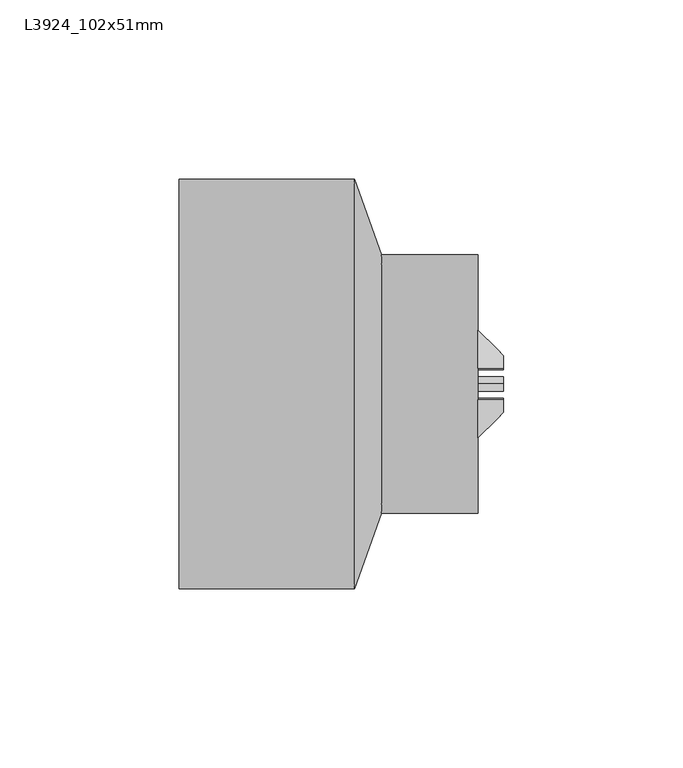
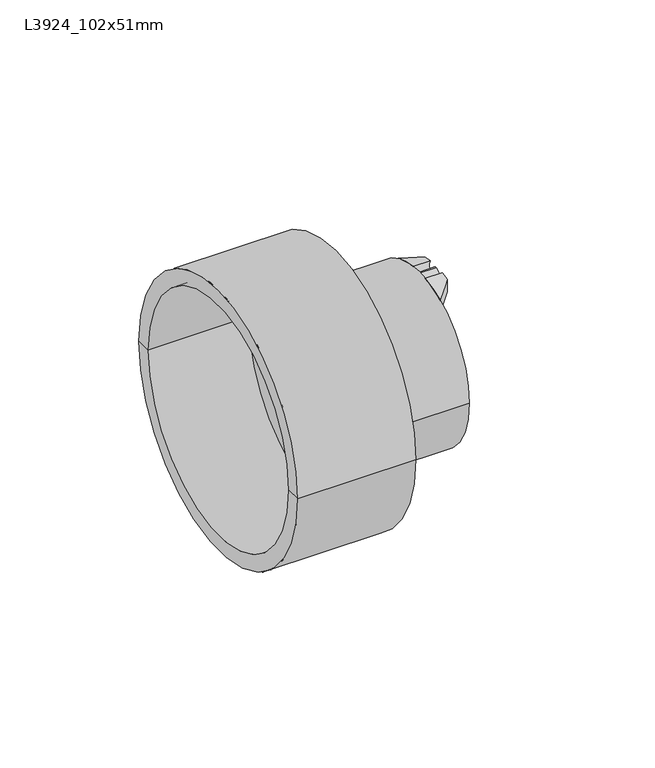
"""IFC4 building model written with IfcOpenShell, lengths in millimetres: pipe fitting geometry, Durapipe_PipeFitting_VulcatheneEnfusion_ReducingCoupler_L39 : L3924_102x51mm."""

from ifc_helpers import new_model, si_unit, point, frame, frame_2d, origin, place, context, project, spatial, polyline, circle_curve, ellipse_curve, trimmed, segment, composite_curve, outline, extrude, source, transform, mapped, element, save
from ifc_brep_helpers import plane_surface, cylinder_surface, revolved_surface, advanced_brep


def l3924_102x51mm_bab0a69e(model_context):
    return source(origin(), model_context, "Body", "SolidModel", [
        advanced_brep(
        [(48.85, -4.0250429, 30.2836842), (48.85, -4.3677433, 35.6836842), (48.85, -7.94, 35.0622147), (48.85, -7.94, 29.5001508), (41.75, -15.0, 32.6711264), (41.75, -4.3677433, 35.6836842), (41.75, -4.0250429, 30.2836842), (41.75, -15.0, 26.6139531)],
        [
            (0, 1, circle_curve(frame((48.85, 0.0, 33.25), z_axis=(-1.0, 0.0, 0.0), x_axis=(0.0, 0.0, -1.0)), 5.0)),
            (1, 2, circle_curve(frame((48.85, 0.0, 0.0), z_axis=(1.0, 0.0, 0.0), x_axis=(0.0, 0.0, -1.0)), 35.95)),
            (2, 3),
            (3, 0, circle_curve(frame((48.85, 0.0, 0.0), z_axis=(-1.0, 0.0, 0.0), x_axis=(0.0, 0.0, -1.0)), 30.55)),
            (4, 5, circle_curve(frame((41.75, 0.0, 0.0), z_axis=(-1.0, 0.0, 0.0), x_axis=(0.0, 0.0, -1.0)), 35.95)),
            (5, 6, circle_curve(frame((41.75, 0.0, 33.25), z_axis=(1.0, 0.0, 0.0), x_axis=(0.0, 0.0, -1.0)), 5.0)),
            (6, 7, circle_curve(frame((41.75, 0.0, 0.0), z_axis=(1.0, 0.0, 0.0), x_axis=(0.0, 0.0, -1.0)), 30.55)),
            (7, 4),
            (6, 0),
            (3, 7, ellipse_curve(frame((56.8349858, 0.0, 0.0), z_axis=(0.7051064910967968, -0.7091014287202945, 0.0), x_axis=(-0.7091014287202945, -0.7051064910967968, 0.0)), 43.3267888, 30.55)),
            (4, 2, ellipse_curve(frame((56.8349858, 0.0, 0.0), z_axis=(-0.7051064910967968, 0.7091014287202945, 0.0), x_axis=(0.7091014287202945, 0.7051064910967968, 0.0)), 50.9852064, 35.95)),
            (1, 5),
        ],
        [
            plane_surface(frame((48.85, -15.0, 32.6711264), z_axis=(1.0, 0.0, 0.0), x_axis=(0.0, 0.0, -1.0))),
            plane_surface(frame((41.75, -15.0, 32.6711264), z_axis=(-1.0, 0.0, 0.0), x_axis=(0.0, 0.0, 1.0))),
            revolved_surface(polyline([(26.111897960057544, 0.0, -30.55), (87.55807363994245, 0.0, -30.55)]), (41.75, 0.0, 0.0), (-1.0, 0.0, 0.0)),
            cylinder_surface(frame((41.75, 0.0, 0.0), z_axis=(1.0, 0.0, 0.0), x_axis=(0.0, 0.0, -1.0)), 35.95),
            revolved_surface(polyline([(48.85, 0.0, 28.25), (41.75, 0.0, 28.25)]), (41.75, 0.0, 33.25), (1.0, 0.0, 0.0)),
            plane_surface(frame((41.75, -15.0, -35.95), z_axis=(0.7051064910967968, -0.7091014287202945, 0.0), x_axis=(0.0, 0.0, 1.0))),
        ],
        [
            (0, [[1, 2, 3, 4]]),
            (1, [[5, 6, 7, 8]]),
            (2, [[-7, 9, -4, 10]]),
            (3, [[-5, 11, -2, 12]]),
            (4, [[-1, -9, -6, -12]]),
            (5, [[-3, -11, -8, -10]]),
        ],
    ),
        advanced_brep(
        [(48.85, 4.3677433, 35.6836842), (48.85, 4.0250429, 30.2836842), (48.85, 7.94, 29.5001508), (48.85, 7.94, 35.0622147), (41.75, 4.3677433, 35.6836842), (41.75, 15.0, 32.6711264), (41.75, 15.0, 26.6139531), (41.75, 4.0250429, 30.2836842)],
        [
            (0, 1, circle_curve(frame((48.85, 0.0, 33.25), z_axis=(-1.0, 0.0, 0.0), x_axis=(0.0, 0.0, -1.0)), 5.0)),
            (1, 2, circle_curve(frame((48.85, 0.0, 0.0), z_axis=(-1.0, 0.0, 0.0), x_axis=(0.0, 0.0, -1.0)), 30.55)),
            (2, 3),
            (3, 0, circle_curve(frame((48.85, 0.0, 0.0), z_axis=(1.0, 0.0, 0.0), x_axis=(0.0, 0.0, -1.0)), 35.95)),
            (4, 5, circle_curve(frame((41.75, 0.0, 0.0), z_axis=(-1.0, 0.0, 0.0), x_axis=(0.0, 0.0, -1.0)), 35.95)),
            (5, 6),
            (6, 7, circle_curve(frame((41.75, 0.0, 0.0), z_axis=(1.0, 0.0, 0.0), x_axis=(0.0, 0.0, -1.0)), 30.55)),
            (7, 4, circle_curve(frame((41.75, 0.0, 33.25), z_axis=(1.0, 0.0, 0.0), x_axis=(0.0, 0.0, -1.0)), 5.0)),
            (6, 2, ellipse_curve(frame((56.8349858, 0.0, 0.0), z_axis=(0.7051064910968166, 0.7091014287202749, 0.0), x_axis=(-0.7091014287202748, 0.7051064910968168, 0.0)), 43.3267888, 30.55)),
            (1, 7),
            (4, 0),
            (3, 5, ellipse_curve(frame((56.8349858, 0.0, 0.0), z_axis=(-0.7051064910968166, -0.7091014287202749, 0.0), x_axis=(0.7091014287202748, -0.7051064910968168, 0.0)), 50.9852064, 35.95)),
        ],
        [
            plane_surface(frame((48.85, -15.0, 32.6711264), z_axis=(1.0, 0.0, 0.0), x_axis=(0.0, 0.0, -1.0))),
            plane_surface(frame((41.75, -15.0, 32.6711264), z_axis=(-1.0, 0.0, 0.0), x_axis=(0.0, 0.0, 1.0))),
            revolved_surface(polyline([(26.111897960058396, 0.0, -30.55), (87.5580736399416, 0.0, -30.55)]), (41.75, 0.0, 0.0), (-1.0, 0.0, 0.0)),
            cylinder_surface(frame((41.75, 0.0, 0.0), z_axis=(1.0, 0.0, 0.0), x_axis=(0.0, 0.0, -1.0)), 35.95),
            revolved_surface(polyline([(48.85, 0.0, 28.25), (41.75, 0.0, 28.25)]), (41.75, 0.0, 33.25), (1.0, 0.0, 0.0)),
            plane_surface(frame((48.85, 7.94, -35.95), z_axis=(0.7051064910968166, 0.7091014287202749, 0.0), x_axis=(0.0, 0.0, 1.0))),
        ],
        [
            (0, [[1, 2, 3, 4]]),
            (1, [[5, 6, 7, 8]]),
            (2, [[-7, 9, -2, 10]]),
            (3, [[-5, 11, -4, 12]]),
            (4, [[-1, -11, -8, -10]]),
            (5, [[-3, -9, -6, -12]]),
        ],
    ),
        advanced_brep(
        [(48.85, -4.3677433, -35.6836842), (48.85, -4.0250429, -30.2836842), (48.85, -7.94, -29.5001508), (48.85, -7.94, -35.0622147), (41.75, -4.3677433, -35.6836842), (41.75, -15.0, -32.6711264), (41.75, -15.0, -26.6139531), (41.75, -4.0250429, -30.2836842)],
        [
            (0, 1, circle_curve(frame((48.85, 0.0, -33.25), z_axis=(-1.0, 0.0, 0.0), x_axis=(0.0, 0.0, -1.0)), 5.0)),
            (1, 2, circle_curve(frame((48.85, 0.0, 0.0), z_axis=(-1.0, 0.0, 0.0), x_axis=(0.0, 0.0, -1.0)), 30.55)),
            (2, 3),
            (3, 0, circle_curve(frame((48.85, 0.0, 0.0), z_axis=(1.0, 0.0, 0.0), x_axis=(0.0, 0.0, -1.0)), 35.95)),
            (4, 5, circle_curve(frame((41.75, 0.0, 0.0), z_axis=(-1.0, 0.0, 0.0), x_axis=(0.0, 0.0, -1.0)), 35.95)),
            (5, 6),
            (6, 7, circle_curve(frame((41.75, 0.0, 0.0), z_axis=(1.0, 0.0, 0.0), x_axis=(0.0, 0.0, -1.0)), 30.55)),
            (7, 4, circle_curve(frame((41.75, 0.0, -33.25), z_axis=(1.0, 0.0, 0.0), x_axis=(0.0, 0.0, -1.0)), 5.0)),
            (6, 2, ellipse_curve(frame((56.8349858, 0.0, 0.0), z_axis=(0.7051064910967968, -0.7091014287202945, 0.0), x_axis=(-0.7091014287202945, -0.7051064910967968, 0.0)), 43.3267888, 30.55)),
            (1, 7),
            (4, 0),
            (3, 5, ellipse_curve(frame((56.8349858, 0.0, 0.0), z_axis=(-0.7051064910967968, 0.7091014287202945, 0.0), x_axis=(0.7091014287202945, 0.7051064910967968, 0.0)), 50.9852064, 35.95)),
        ],
        [
            plane_surface(frame((48.85, -15.0, 32.6711264), z_axis=(1.0, 0.0, 0.0), x_axis=(0.0, 0.0, -1.0))),
            plane_surface(frame((41.75, -15.0, 32.6711264), z_axis=(-1.0, 0.0, 0.0), x_axis=(0.0, 0.0, 1.0))),
            revolved_surface(polyline([(26.111897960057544, 0.0, -30.55), (87.55807363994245, 0.0, -30.55)]), (41.75, 0.0, 0.0), (-1.0, 0.0, 0.0)),
            cylinder_surface(frame((41.75, 0.0, 0.0), z_axis=(1.0, 0.0, 0.0), x_axis=(0.0, 0.0, -1.0)), 35.95),
            revolved_surface(polyline([(48.85, 0.0, -38.25), (41.75, 0.0, -38.25)]), (41.75, 0.0, -33.25), (1.0, 0.0, 0.0)),
            plane_surface(frame((41.75, -15.0, -35.95), z_axis=(0.7051064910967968, -0.7091014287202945, 0.0), x_axis=(0.0, 0.0, 1.0))),
        ],
        [
            (0, [[1, 2, 3, 4]]),
            (1, [[5, 6, 7, 8]]),
            (2, [[-7, 9, -2, 10]]),
            (3, [[-5, 11, -4, 12]]),
            (4, [[-1, -11, -8, -10]]),
            (5, [[-3, -9, -6, -12]]),
        ],
    ),
        advanced_brep(
        [(48.85, 4.0250429, -30.2836842), (48.85, 4.3677433, -35.6836842), (48.85, 7.94, -35.0622147), (48.85, 7.94, -29.5001508), (41.75, 15.0, -32.6711264), (41.75, 4.3677433, -35.6836842), (41.75, 4.0250429, -30.2836842), (41.75, 15.0, -26.6139531)],
        [
            (0, 1, circle_curve(frame((48.85, 0.0, -33.25), z_axis=(-1.0, 0.0, 0.0), x_axis=(0.0, 0.0, -1.0)), 5.0)),
            (1, 2, circle_curve(frame((48.85, 0.0, 0.0), z_axis=(1.0, 0.0, 0.0), x_axis=(0.0, 0.0, -1.0)), 35.95)),
            (2, 3),
            (3, 0, circle_curve(frame((48.85, 0.0, 0.0), z_axis=(-1.0, 0.0, 0.0), x_axis=(0.0, 0.0, -1.0)), 30.55)),
            (4, 5, circle_curve(frame((41.75, 0.0, 0.0), z_axis=(-1.0, 0.0, 0.0), x_axis=(0.0, 0.0, -1.0)), 35.95)),
            (5, 6, circle_curve(frame((41.75, 0.0, -33.25), z_axis=(1.0, 0.0, 0.0), x_axis=(0.0, 0.0, -1.0)), 5.0)),
            (6, 7, circle_curve(frame((41.75, 0.0, 0.0), z_axis=(1.0, 0.0, 0.0), x_axis=(0.0, 0.0, -1.0)), 30.55)),
            (7, 4),
            (6, 0),
            (3, 7, ellipse_curve(frame((56.8349858, 0.0, 0.0), z_axis=(0.7051064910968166, 0.7091014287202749, 0.0), x_axis=(-0.7091014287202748, 0.7051064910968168, 0.0)), 43.3267888, 30.55)),
            (4, 2, ellipse_curve(frame((56.8349858, 0.0, 0.0), z_axis=(-0.7051064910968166, -0.7091014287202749, 0.0), x_axis=(0.7091014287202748, -0.7051064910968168, 0.0)), 50.9852064, 35.95)),
            (1, 5),
        ],
        [
            plane_surface(frame((48.85, -15.0, 32.6711264), z_axis=(1.0, 0.0, 0.0), x_axis=(0.0, 0.0, -1.0))),
            plane_surface(frame((41.75, -15.0, 32.6711264), z_axis=(-1.0, 0.0, 0.0), x_axis=(0.0, 0.0, 1.0))),
            revolved_surface(polyline([(26.111897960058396, 0.0, -30.55), (87.5580736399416, 0.0, -30.55)]), (41.75, 0.0, 0.0), (-1.0, 0.0, 0.0)),
            cylinder_surface(frame((41.75, 0.0, 0.0), z_axis=(1.0, 0.0, 0.0), x_axis=(0.0, 0.0, -1.0)), 35.95),
            revolved_surface(polyline([(48.85, 0.0, -38.25), (41.75, 0.0, -38.25)]), (41.75, 0.0, -33.25), (1.0, 0.0, 0.0)),
            plane_surface(frame((48.85, 7.94, -35.95), z_axis=(0.7051064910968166, 0.7091014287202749, 0.0), x_axis=(0.0, 0.0, 1.0))),
        ],
        [
            (0, [[1, 2, 3, 4]]),
            (1, [[5, 6, 7, 8]]),
            (2, [[-7, 9, -4, 10]]),
            (3, [[-5, 11, -2, 12]]),
            (4, [[-1, -9, -6, -12]]),
            (5, [[-3, -11, -8, -10]]),
        ],
    ),
        extrude(outline(composite_curve([segment(trimmed(circle_curve(frame_2d((0.0, 33.25)), 2.0), [point((0.0, 35.25))], [point((0.0, 31.25))], False, "CARTESIAN"), True, "CONTINUOUS"), segment(trimmed(circle_curve(frame_2d((0.0, 33.25)), 2.0), [point((0.0, 31.25))], [point((0.0, 35.25))], False, "CARTESIAN"), True, "CONTINUOUS")], self_intersect=False)), frame((41.75, 0.0, 0.0), z_axis=(1.0, 0.0, 0.0), x_axis=(0.0, 1.0, 0.0)), (0.0, 0.0, 1.0), 7.1),
        extrude(outline(composite_curve([segment(trimmed(circle_curve(frame_2d((0.0, -33.25)), 2.0), [point((0.0, -31.25))], [point((0.0, -35.25))], False, "CARTESIAN"), True, "CONTINUOUS"), segment(trimmed(circle_curve(frame_2d((0.0, -33.25)), 2.0), [point((0.0, -35.25))], [point((0.0, -31.25))], False, "CARTESIAN"), True, "CONTINUOUS")], self_intersect=False)), frame((41.75, 0.0, 0.0), z_axis=(1.0, 0.0, 0.0), x_axis=(0.0, 1.0, 0.0)), (0.0, 0.0, 1.0), 7.1),
        advanced_brep(
        [(7.25, -57.15, 0.0), (7.25, 57.15, 0.0), (14.75, 36.1, 0.0), (14.75, -36.1, 0.0), (-41.75, -57.15, 0.0), (-41.75, 57.15, 0.0), (-41.75, -50.65, 0.0), (-41.75, 50.65, 0.0), (-0.05, -50.65, 0.0), (-0.05, 50.65, 0.0), (41.75, -30.4, 0.0), (41.75, 30.4, 0.0), (16.55, 30.4, 0.0), (16.55, -30.4, 0.0), (41.75, -36.1, 0.0), (41.75, 36.1, 0.0), (8.75, -28.0, 0.0), (8.75, 28.0, 0.0), (16.55, -28.0, 0.0), (16.55, 28.0, 0.0)],
        [
            (0, 1, circle_curve(frame((7.25, 0.0, 0.0), z_axis=(1.0, 0.0, 0.0), x_axis=(0.0, 1.0, 0.0)), 57.15)),
            (1, 2),
            (2, 3, circle_curve(frame((14.75, 0.0, 0.0), z_axis=(-1.0, 0.0, 0.0), x_axis=(0.0, 1.0, 0.0)), 36.1)),
            (3, 0),
            (1, 0, circle_curve(frame((7.25, 0.0, 0.0), z_axis=(1.0, 0.0, 0.0), x_axis=(0.0, 1.0, 0.0)), 57.15)),
            (3, 2, circle_curve(frame((14.75, 0.0, 0.0), z_axis=(-1.0, 0.0, 0.0), x_axis=(0.0, 1.0, 0.0)), 36.1)),
            (4, 5, circle_curve(frame((-41.75, 0.0, 0.0), z_axis=(1.0, 0.0, 0.0), x_axis=(0.0, 1.0, 0.0)), 57.15)),
            (5, 1),
            (0, 4),
            (5, 4, circle_curve(frame((-41.75, 0.0, 0.0), z_axis=(1.0, 0.0, 0.0), x_axis=(0.0, 1.0, 0.0)), 57.15)),
            (6, 7, circle_curve(frame((-41.75, 0.0, 0.0), z_axis=(1.0, 0.0, 0.0), x_axis=(0.0, 1.0, 0.0)), 50.65)),
            (7, 5),
            (4, 6),
            (7, 6, circle_curve(frame((-41.75, 0.0, 0.0), z_axis=(1.0, 0.0, 0.0), x_axis=(0.0, 1.0, 0.0)), 50.65)),
            (8, 9, circle_curve(frame((-0.05, 0.0, 0.0), z_axis=(1.0, 0.0, 0.0), x_axis=(0.0, 1.0, 0.0)), 50.65)),
            (9, 7),
            (6, 8),
            (9, 8, circle_curve(frame((-0.05, 0.0, 0.0), z_axis=(1.0, 0.0, 0.0), x_axis=(0.0, 1.0, 0.0)), 50.65)),
            (10, 11, circle_curve(frame((41.75, 0.0, 0.0), z_axis=(1.0, 0.0, 0.0), x_axis=(0.0, 1.0, 0.0)), 30.4)),
            (11, 12),
            (12, 13, circle_curve(frame((16.55, 0.0, 0.0), z_axis=(-1.0, 0.0, 0.0), x_axis=(0.0, 1.0, 0.0)), 30.4)),
            (13, 10),
            (11, 10, circle_curve(frame((41.75, 0.0, 0.0), z_axis=(1.0, 0.0, 0.0), x_axis=(0.0, 1.0, 0.0)), 30.4)),
            (13, 12, circle_curve(frame((16.55, 0.0, 0.0), z_axis=(-1.0, 0.0, 0.0), x_axis=(0.0, 1.0, 0.0)), 30.4)),
            (14, 15, circle_curve(frame((41.75, 0.0, 0.0), z_axis=(1.0, 0.0, 0.0), x_axis=(0.0, 1.0, 0.0)), 36.1)),
            (15, 11),
            (10, 14),
            (15, 14, circle_curve(frame((41.75, 0.0, 0.0), z_axis=(1.0, 0.0, 0.0), x_axis=(0.0, 1.0, 0.0)), 36.1)),
            (2, 15),
            (14, 3),
            (16, 17, circle_curve(frame((8.75, 0.0, 0.0), z_axis=(1.0, 0.0, 0.0), x_axis=(0.0, 1.0, 0.0)), 28.0)),
            (17, 9),
            (8, 16),
            (17, 16, circle_curve(frame((8.75, 0.0, 0.0), z_axis=(1.0, 0.0, 0.0), x_axis=(0.0, 1.0, 0.0)), 28.0)),
            (18, 19, circle_curve(frame((16.55, 0.0, 0.0), z_axis=(1.0, 0.0, 0.0), x_axis=(0.0, 1.0, 0.0)), 28.0)),
            (19, 17),
            (16, 18),
            (19, 18, circle_curve(frame((16.55, 0.0, 0.0), z_axis=(1.0, 0.0, 0.0), x_axis=(0.0, 1.0, 0.0)), 28.0)),
            (12, 19),
            (18, 13),
        ],
        [
            revolved_surface(polyline([(14.75, 36.1, 0.0), (7.25, 57.15, 0.0)]), (1571.2518184, 0.0, 0.0), (-1.0, 0.0, 0.0)),
            cylinder_surface(frame((1571.2518184, 0.0, 0.0), z_axis=(-1.0, 0.0, 0.0), x_axis=(0.0, 1.0, 0.0)), 57.15),
            plane_surface(frame((-41.75, 0.0, 0.0), z_axis=(-1.0, 0.0, 0.0), x_axis=(0.0, 1.0, 0.0))),
            revolved_surface(polyline([(-41.75, 50.65, 0.0), (-0.049999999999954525, 50.65, 0.0)]), (1571.2518184, 0.0, 0.0), (-1.0, 0.0, 0.0)),
            revolved_surface(polyline([(16.549999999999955, 30.4, 0.0), (41.75, 30.4, 0.0)]), (1571.2518184, 0.0, 0.0), (-1.0, 0.0, 0.0)),
            plane_surface(frame((41.75, 0.0, 0.0), z_axis=(1.0, 0.0, 0.0), x_axis=(0.0, 1.0, 0.0))),
            cylinder_surface(frame((1571.2518184, 0.0, 0.0), z_axis=(-1.0, 0.0, 0.0), x_axis=(0.0, 1.0, 0.0)), 36.1),
            revolved_surface(polyline([(-0.05, 50.65, 0.0), (8.75, 28.0, 0.0)]), (1571.2518184, 0.0, 0.0), (-1.0, 0.0, 0.0)),
            revolved_surface(polyline([(8.75, 28.0, 0.0), (16.549999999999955, 28.0, 0.0)]), (1571.2518184, 0.0, 0.0), (-1.0, 0.0, 0.0)),
            plane_surface(frame((16.55, 0.0, 0.0), z_axis=(1.0, 0.0, 0.0), x_axis=(0.0, 1.0, 0.0))),
        ],
        [
            (0, [[1, 2, 3, 4]]),
            (0, [[5, -4, 6, -2]]),
            (1, [[7, 8, -1, 9]]),
            (1, [[10, -9, -5, -8]]),
            (2, [[11, 12, -7, 13]]),
            (2, [[14, -13, -10, -12]]),
            (3, [[15, 16, -11, 17]]),
            (3, [[18, -17, -14, -16]]),
            (4, [[19, 20, 21, 22]]),
            (4, [[23, -22, 24, -20]]),
            (5, [[25, 26, -19, 27]]),
            (5, [[28, -27, -23, -26]]),
            (6, [[-3, 29, -25, 30]]),
            (6, [[-6, -30, -28, -29]]),
            (7, [[31, 32, -15, 33]]),
            (7, [[34, -33, -18, -32]]),
            (8, [[35, 36, -31, 37]]),
            (8, [[38, -37, -34, -36]]),
            (9, [[-21, 39, -35, 40]]),
            (9, [[-24, -40, -38, -39]]),
        ],
    ),
    ])


if __name__ == "__main__":
    model = new_model("IFC4")
    model_context = context("Model", 3, world=origin())
    ifc_project = project(units=[si_unit("LENGTHUNIT", "METRE", prefix="MILLI")], contexts=[model_context])
    site = spatial("IfcSite", under=ifc_project)
    building = spatial("IfcBuilding", under=site)
    placement = place(None, origin())
    l3924_102x51mm_shape = l3924_102x51mm_bab0a69e(model_context)
    element("IfcPipeFitting", 1, ObjectType="Durapipe_PipeFitting_VulcatheneEnfusion_ReducingCoupler_L39 : L3924_102x51mm", at=placement, inside=building, context=model_context, shape_type="MappedRepresentation", body=[
        mapped(l3924_102x51mm_shape, transform((0.0, 0.0, 0.0), x_axis=(1.0, 0.0, 0.0), y_axis=(0.0, 1.0, 0.0), z_axis=(0.0, 0.0, 1.0))),
    ])
    save(model, "model.ifc")
